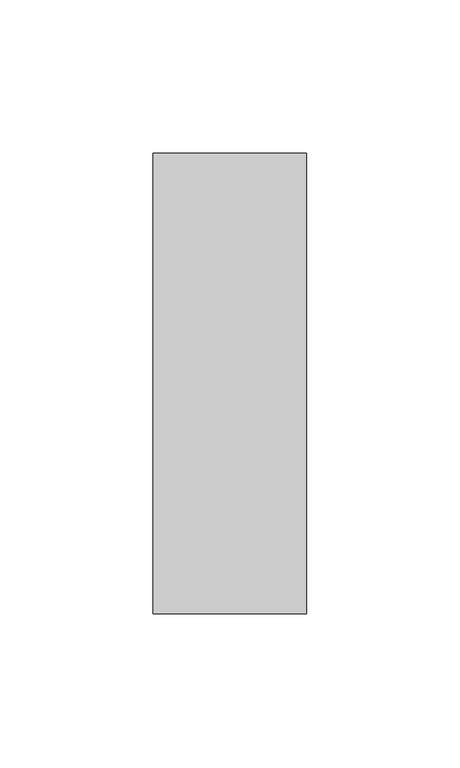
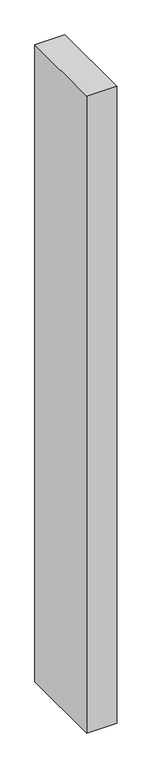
"""IFC4 building model written with IfcOpenShell, lengths in millimetres: member geometry, Прямоугольный импост : 50 x 150 мм."""

from ifc_helpers import new_model, si_unit, frame, origin, place, context, project, spatial, polyline, outline, extrude, source, transform, mapped, element, save


def member_6e702a35(model_context):
    return source(origin(), model_context, "Body", "SweptSolid", [
        extrude(outline(polyline([(25.0, 75.0), (25.0, -75.0), (-25.0, -75.0), (-25.0, 75.0), (25.0, 75.0)])), frame((0.0, 0.0, -1123.0868342), z_axis=(0.0, 0.0, 1.0), x_axis=(1.0, 0.0, 0.0)), (0.0, 0.0, 1.0), 1123.0868342),
    ])


if __name__ == "__main__":
    model = new_model("IFC4")
    model_context = context("Model", 3, world=origin())
    ifc_project = project(units=[si_unit("LENGTHUNIT", "METRE", prefix="MILLI")], contexts=[model_context])
    site = spatial("IfcSite", under=ifc_project)
    building = spatial("IfcBuilding", under=site)
    placement = place(None, origin())
    member_shape = member_6e702a35(model_context)
    element("IfcMember", 1, ObjectType="Прямоугольный импост : 50 x 150 мм", at=placement, inside=building, context=model_context, shape_type="MappedRepresentation", body=[
        mapped(member_shape, transform((0.0, 0.0, 0.0), x_axis=(1.0, 0.0, 0.0), y_axis=(0.0, 1.0, 0.0), z_axis=(0.0, 0.0, 1.0))),
    ])
    save(model, "model.ifc")
